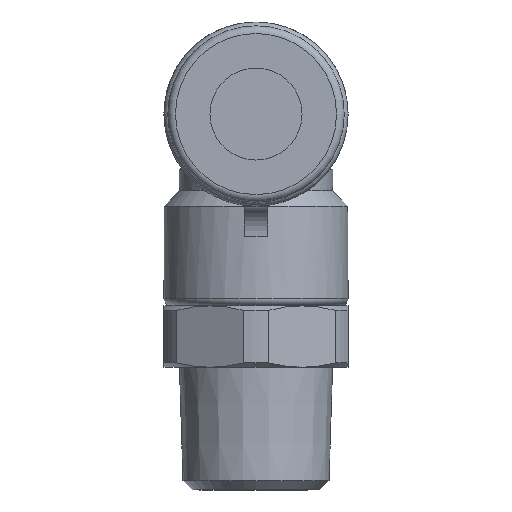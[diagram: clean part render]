
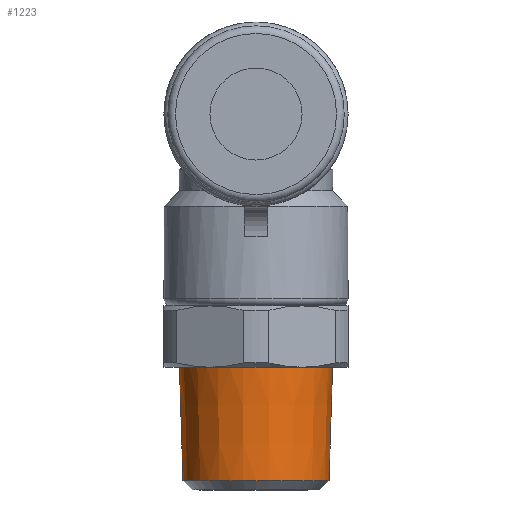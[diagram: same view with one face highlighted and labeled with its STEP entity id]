
A CAD part, left-side view. The second image highlights one B-rep face of the part: STEP entity #1223.
In plain terms, the highlighted conical face has half-angle 1.79 degrees and reference radius 4.864 mm.
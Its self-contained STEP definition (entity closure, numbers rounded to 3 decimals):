
#54=FACE_BOUND($,#288,.T.);
#84=CONICAL_SURFACE($,#1350,4.864,1.79);
#192=FACE_OUTER_BOUND($,#287,.T.);
#287=EDGE_LOOP($,(#952));
#288=EDGE_LOOP($,(#953));
#388=CIRCLE($,#1349,4.758);
#389=CIRCLE($,#1351,4.989);
#583=VERTEX_POINT($,#2114);
#584=VERTEX_POINT($,#2117);
#723=EDGE_CURVE($,#583,#583,#388,.T.);
#724=EDGE_CURVE($,#584,#584,#389,.F.);
#952=ORIENTED_EDGE($,*,*,#724,.F.);
#953=ORIENTED_EDGE($,*,*,#723,.T.);
#1223=ADVANCED_FACE($,(#192,#54),#84,.T.);
#1349=AXIS2_PLACEMENT_3D($,#2115,#1623,#1624);
#1350=AXIS2_PLACEMENT_3D($,#2116,#1625,#1626);
#1351=AXIS2_PLACEMENT_3D($,#2118,#1627,#1628);
#1623=DIRECTION('center_axis',(0.,0.,
1.));
#1624=DIRECTION('ref_axis',(-1.,0.,0.));
#1625=DIRECTION('center_axis',(0.,0.,1.));
#1626=DIRECTION('ref_axis',(1.,0.,0.));
#1627=DIRECTION('center_axis',(0.,0.,
-1.));
#1628=DIRECTION('ref_axis',(1.,0.,0.));
#2114=CARTESIAN_POINT('',(0.,4.758,-23.9));
#2115=CARTESIAN_POINT('Origin',(0.,0.,
-23.9));
#2116=CARTESIAN_POINT('Origin',(0.,0.,
-20.5));
#2117=CARTESIAN_POINT('',(0.,4.989,-16.5));
#2118=CARTESIAN_POINT('Origin',(0.,0.,
-16.5));
